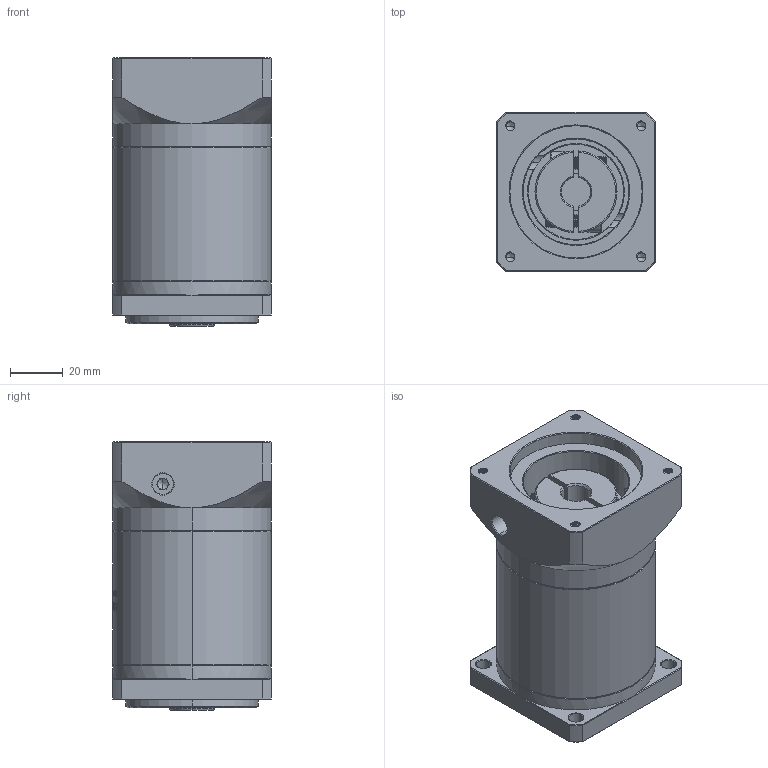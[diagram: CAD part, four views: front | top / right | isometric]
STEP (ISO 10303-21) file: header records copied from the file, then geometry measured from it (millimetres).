
FILE_DESCRIPTION (( 'STEP AP214' ), '1' );
FILE_NAME ('ZF060-K10-L2-P2-11-50-70-M4.step', '2023-08-16T04:30:48', ( '' ), ( '' ), 'SwSTEP 2.0', 'SolidWorks 2016', '' );
FILE_SCHEMA (( 'AUTOMOTIVE_DESIGN' ));
Length unit declared in the file: millimetre
Products named in the file (1): ZF060-K10-L2-P2-11-50-70-M4
Bounding box: 60 x 60 x 101.5 mm (x, y, z)
Volume: 264181.8 mm3; surface area: 46023.3 mm2
Topology: 6 solids, 6 shells, 1669 faces, 4527 edges, 2940 vertices
Faces by surface type: plane 787, bspline 347, cylinder 289, cone 228, torus 18
Entity records: 89969 total; most frequent: CARTESIAN_POINT 33430, ORIENTED_EDGE 9030, DIRECTION 6499, EDGE_CURVE 4515, VERTEX_POINT 2940, VECTOR 2313, LINE 2313, AXIS2_PLACEMENT_3D 2093
